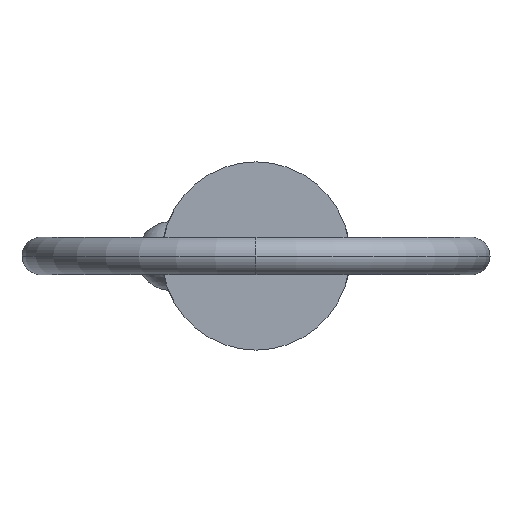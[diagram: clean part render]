
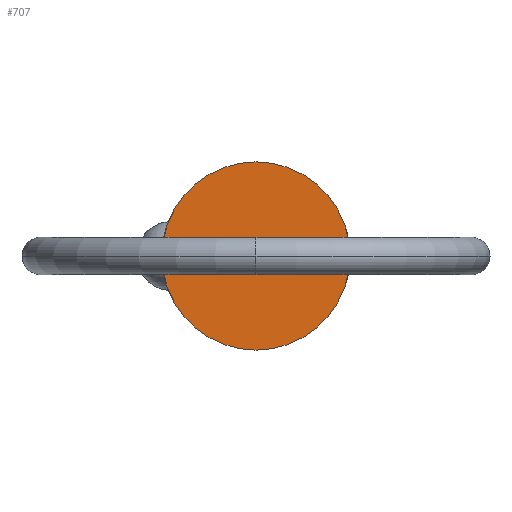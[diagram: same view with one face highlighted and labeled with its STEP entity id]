
A CAD part, left-side view. The second image highlights one B-rep face of the part: STEP entity #707.
In plain terms, the highlighted planar face has unit normal (-1, 0, 0).
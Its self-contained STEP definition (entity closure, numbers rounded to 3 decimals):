
#111 = AXIS2_PLACEMENT_3D ( 'NONE', #531, #132, #203 ) ;
#132 = DIRECTION ( 'NONE',  ( 1., 0., 0. ) ) ;
#143 = VERTEX_POINT ( 'NONE', #784 ) ;
#189 = CARTESIAN_POINT ( 'NONE',  ( 0., 0., -5.555 ) ) ;
#198 = DIRECTION ( 'NONE',  ( 1., 0., 0. ) ) ;
#203 = DIRECTION ( 'NONE',  ( 0., 0., -1. ) ) ;
#228 = VERTEX_POINT ( 'NONE', #189 ) ;
#230 = EDGE_CURVE ( 'NONE', #143, #228, #750, .T. ) ;
#232 = CIRCLE ( 'NONE', #340, 5.555 ) ;
#254 = DIRECTION ( 'NONE',  ( 0., 0., -1. ) ) ;
#313 = AXIS2_PLACEMENT_3D ( 'NONE', #683, #535, #414 ) ;
#340 = AXIS2_PLACEMENT_3D ( 'NONE', #447, #198, #254 ) ;
#414 = DIRECTION ( 'NONE',  ( 0., 0., 1. ) ) ;
#447 = CARTESIAN_POINT ( 'NONE',  ( 0., 0., 0. ) ) ;
#472 = EDGE_CURVE ( 'NONE', #228, #143, #232, .T. ) ;
#531 = CARTESIAN_POINT ( 'NONE',  ( 0., 0., 0. ) ) ;
#535 = DIRECTION ( 'NONE',  ( -1., 0., 0. ) ) ;
#539 = PLANE ( 'NONE',  #313 ) ;
#608 = EDGE_LOOP ( 'NONE', ( #822, #836 ) ) ;
#613 = FACE_OUTER_BOUND ( 'NONE', #608, .T. ) ;
#683 = CARTESIAN_POINT ( 'NONE',  ( 0., 0., 0. ) ) ;
#707 = ADVANCED_FACE ( 'NONE', ( #613 ), #539, .T. ) ;
#750 = CIRCLE ( 'NONE', #111, 5.555 ) ;
#784 = CARTESIAN_POINT ( 'NONE',  ( 0., 0., 5.555 ) ) ;
#822 = ORIENTED_EDGE ( 'NONE', *, *, #472, .F. ) ;
#836 = ORIENTED_EDGE ( 'NONE', *, *, #230, .F. ) ;
